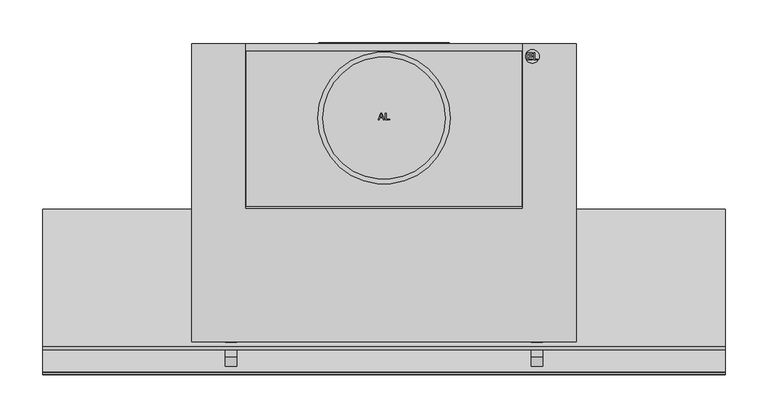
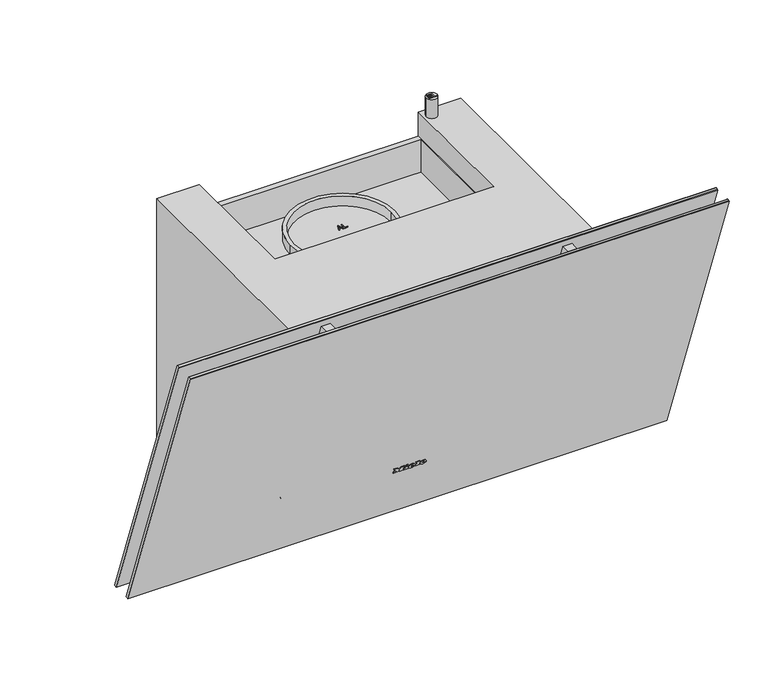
"""IFC4 building model written with IfcOpenShell, lengths in millimetres: proxy geometry, 12533950_D_DAH2860_GRGR : 28H2860G_D_12533950_DAH2860_GRGR."""

from ifc_helpers import new_model, si_unit, point, frame, frame_2d, origin, origin_with_axes, place, context, project, spatial, polyline, circle_curve, ellipse_curve, trimmed, segment, composite_curve, outline, extrude, faceted_brep, source, transform, mapped, element, save
from ifc_brep_helpers import plane_surface, cylinder_surface, revolved_surface, extruded_surface, advanced_brep


def specialty_equipment_5b4391ac(model_context):
    return source(origin(), model_context, "Body", "SolidModel", [
        extrude(outline(polyline([(0.0, 0.0), (0.968, 0.0), (0.968, 5.352), (0.0, 5.352), (0.0, 6.696), (3.52, 6.696), (3.52, 5.352), (2.56, 5.352), (2.56, 1.9488753), (6.136, 6.696), (9.728, 1.8807777), (9.728, 5.352), (8.744, 5.352), (8.744, 6.696), (15.128, 6.696), (15.128, 5.352), (14.112, 5.352), (14.112, 0.0), (15.128, 0.0), (15.128, -1.304), (10.256, -1.304), (7.92, 1.696), (5.576, -1.304), (0.0, -1.304), (0.0, 0.0)])), frame((-24.271984, -261.1380975, 82.2921818), z_axis=(0.0, 0.9396926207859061, 0.34202014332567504), x_axis=(1.0, 0.0, 0.0)), (0.0, 0.0, 1.0), 1.0),
        extrude(outline(polyline([(0.0, 0.0), (0.96, 0.0), (0.96, 5.352), (0.0, 5.352), (0.0, 6.696), (6.488, 6.696), (6.488, 5.352), (5.504, 5.352), (5.504, -1.304), (0.0, -1.304), (0.0, 0.0)])), frame((8.192016, -261.1380975, 82.2921818), z_axis=(0.0, 0.9396926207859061, 0.34202014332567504), x_axis=(1.0, 0.0, 0.0)), (0.0, 0.0, 1.0), 1.0),
        extrude(outline(polyline([(0.0, 0.0), (1.4315306, 0.0), (1.4390414, -2.9920869), (0.0109086, -2.9993294), (0.0, 0.0)])), frame((-6.351984, -261.4226582, 83.074006), z_axis=(0.0, 0.9396926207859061, 0.342020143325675), x_axis=(0.42472021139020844, 0.30963927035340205, -0.8507269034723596)), (0.0, 0.0, 1.0), 1.0),
        extrude(outline(polyline([(0.4933907, 2.4141097), (1.7898156, 3.022309), (2.1941493, 2.1604399), (5.1636141, 3.5535222), (4.7592805, 4.4153913), (5.9760369, 4.9862153), (8.6568708, -0.728194), (7.4401145, -1.299018), (7.0459741, -0.4588767), (2.7800843, -2.4601583), (0.4933907, 2.4141097)])), frame((-6.351984, -261.4226582, 83.074006), z_axis=(0.0, 0.9396926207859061, 0.342020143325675), x_axis=(0.42472021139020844, 0.30963927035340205, -0.8507269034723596)), (0.0, 0.0, 1.0), 1.0),
        advanced_brep(
        [(2.392016, -259.4964008, 77.7816572), (2.392016, -259.7727531, 78.5409288), (7.744016, -259.7727531, 78.5409288), (-1.567984, -259.7727531, 78.5409288), (0.632016, -258.8479306, 76.0), (7.608016, -259.4964008, 77.7816572), (5.192016, -259.4964008, 77.7816572), (3.288016, -259.1899507, 76.9396926), (2.392016, -260.1229817, 79.5031741), (2.392016, -260.4212233, 80.3225861), (3.760016, -260.4212233, 80.3225861), (3.760016, -260.1229817, 79.5031741), (2.392016, -258.5567082, 78.1236774), (3.288016, -258.2502581, 77.2817128), (5.192016, -258.5567082, 78.1236774), (7.608016, -258.5567082, 78.1236774), (0.632016, -257.908238, 76.3420201), (-1.567984, -258.8330604, 78.882949), (7.744016, -258.8330604, 78.882949), (2.392016, -258.8330604, 78.882949), (2.392016, -259.1832891, 79.8451942), (3.760016, -259.1832891, 79.8451942), (3.760016, -259.4815306, 80.6646062), (2.392016, -259.4815306, 80.6646062)],
        [
            (0, 1),
            (1, 2),
            (2, 3, ellipse_curve(frame((3.088016, -259.7727531, 78.5409288), z_axis=(0.0, -0.9396926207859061, -0.34202014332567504), x_axis=(-1.0, 0.0, 0.0)), 4.656, 3.848)),
            (3, 4, circle_curve(frame((1.5280596, -259.8657825, 78.7965252), z_axis=(0.0, -0.9396926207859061, -0.34202014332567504), x_axis=(0.0, 0.34202014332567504, -0.9396926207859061)), 3.1079688)),
            (4, 5, circle_curve(frame((2.9948096, -260.5881291, 80.7811561), z_axis=(0.0, -0.9396926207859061, -0.34202014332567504), x_axis=(0.0, 0.34202014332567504, -0.9396926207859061)), 5.6098607)),
            (5, 6),
            (6, 7, circle_curve(frame((3.6790748, -259.7508638, 78.4807885), z_axis=(0.0, 0.9396926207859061, 0.34202014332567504), x_axis=(0.0, 0.34202014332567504, -0.9396926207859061)), 1.6859795)),
            (7, 0, circle_curve(frame((3.288016, -259.4964008, 77.7816572), z_axis=(0.0, 0.9396926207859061, 0.34202014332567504), x_axis=(0.0, 0.34202014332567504, -0.9396926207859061)), 0.896)),
            (8, 9),
            (9, 10, circle_curve(frame((3.076016, -260.4212233, 80.3225861), z_axis=(0.0, 0.9396926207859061, 0.34202014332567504), x_axis=(0.0, 0.34202014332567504, -0.9396926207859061)), 0.684)),
            (10, 11),
            (11, 8),
            (12, 13, circle_curve(frame((3.288016, -258.5567082, 78.1236774), z_axis=(0.0, -0.9396926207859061, -0.34202014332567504), x_axis=(0.0, 0.34202014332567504, -0.9396926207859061)), 0.896)),
            (13, 14, circle_curve(frame((3.6790748, -258.8111712, 78.8228087), z_axis=(0.0, -0.9396926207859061, -0.34202014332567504), x_axis=(0.0, 0.34202014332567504, -0.9396926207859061)), 1.6859795)),
            (14, 15),
            (15, 16, circle_curve(frame((2.9948096, -259.6484365, 81.1231762), z_axis=(0.0, 0.9396926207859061, 0.34202014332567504), x_axis=(0.0, 0.34202014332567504, -0.9396926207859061)), 5.6098607)),
            (16, 17, circle_curve(frame((1.5280596, -258.9260899, 79.1385454), z_axis=(0.0, 0.9396926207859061, 0.34202014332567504), x_axis=(0.0, 0.34202014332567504, -0.9396926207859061)), 3.1079688)),
            (17, 18, ellipse_curve(frame((3.088016, -258.8330604, 78.882949), z_axis=(0.0, 0.9396926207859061, 0.34202014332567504), x_axis=(-1.0, 0.0, 0.0)), 4.656, 3.848)),
            (18, 19),
            (19, 12),
            (20, 21),
            (21, 22),
            (22, 23, circle_curve(frame((3.076016, -259.4815306, 80.6646062), z_axis=(0.0, -0.9396926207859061, -0.34202014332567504), x_axis=(0.0, 0.34202014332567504, -0.9396926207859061)), 0.684)),
            (23, 20),
            (0, 12),
            (19, 1),
            (18, 2),
            (5, 15),
            (14, 6),
            (17, 3),
            (13, 7),
            (16, 4),
            (8, 20),
            (23, 9),
            (22, 10),
            (21, 11),
        ],
        [
            plane_surface(frame((2.392016, -259.7727531, 78.5409288), z_axis=(0.0, -0.9396926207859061, -0.34202014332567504), x_axis=(0.0, -0.34202014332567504, 0.9396926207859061))),
            plane_surface(frame((2.392016, -258.8330604, 78.882949), z_axis=(0.0, 0.9396926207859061, 0.34202014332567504), x_axis=(0.0, 0.34202014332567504, -0.9396926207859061))),
            plane_surface(frame((2.392016, -259.4964008, 77.7816572), z_axis=(1.0, 0.0, 0.0), x_axis=(0.0, 0.9396926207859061, 0.34202014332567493))),
            plane_surface(frame((2.392016, -259.7727531, 78.5409288), z_axis=(0.0, 0.34202014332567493, -0.9396926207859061), x_axis=(0.0, 0.9396926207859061, 0.34202014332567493))),
            plane_surface(frame((7.608016, -259.4964008, 77.7816572), z_axis=(0.0, -0.34202014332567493, 0.9396926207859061), x_axis=(0.0, 0.9396926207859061, 0.34202014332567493))),
            extruded_surface(trimmed(ellipse_curve(frame((3.088016, -257.8933678, 79.2249691), z_axis=(0.0, -0.9396926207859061, -0.34202014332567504), x_axis=(-1.0, 0.0, 0.0)), 4.656, 3.848), [point((7.744016, -257.8933678, 79.2249691))], [point((-1.567984, -257.8933678, 79.2249691))], True, "CARTESIAN"), (0.0, -0.9396926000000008, -0.34202009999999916), 0.9999999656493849),
            revolved_surface(polyline([(3.6790748, -258.2345321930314, 77.23850622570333), (3.6790748, -259.1742248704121, 76.89648606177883)]), (3.6790748, -258.8111712, 78.8228087), (0.0, 0.9396926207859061, 0.34202014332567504)),
            revolved_surface(polyline([(3.288016, -258.25025810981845, 77.28171282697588), (3.288016, -259.1899507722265, 76.93969266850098)]), (3.288016, -258.5567082, 78.1236774), (0.0, 0.9396926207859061, 0.34202014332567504)),
            cylinder_surface(frame((1.5280596, -258.9260899, 79.1385454), z_axis=(0.0, -0.9396926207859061, -0.34202014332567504), x_axis=(0.0, 0.34202014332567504, -0.9396926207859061)), 3.1079688),
            cylinder_surface(frame((2.9948096, -259.6484365, 81.1231762), z_axis=(0.0, -0.9396926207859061, -0.34202014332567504), x_axis=(0.0, 0.34202014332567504, -0.9396926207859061)), 5.6098607),
            plane_surface(frame((2.392016, -260.1229817, 79.5031741), z_axis=(1.0, 0.0, 0.0), x_axis=(0.0, 0.9396926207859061, 0.34202014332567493))),
            revolved_surface(polyline([(3.076016, -259.2475888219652, 80.02185644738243), (3.076016, -260.1872814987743, 79.67983628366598)]), (3.076016, -259.4815306, 80.6646062), (0.0, 0.9396926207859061, 0.34202014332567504)),
            plane_surface(frame((3.760016, -260.4212233, 80.3225861), z_axis=(-1.0, 0.0, 0.0), x_axis=(0.0, 0.9396926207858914, 0.3420201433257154))),
            plane_surface(frame((3.760016, -260.1229817, 79.5031741), z_axis=(0.0, -0.34202014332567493, 0.9396926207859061), x_axis=(0.0, 0.9396926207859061, 0.34202014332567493))),
        ],
        [
            (0, [[1, 2, 3, 4, 5, 6, 7, 8], [9, 10, 11, 12]]),
            (1, [[13, 14, 15, 16, 17, 18, 19, 20], [21, 22, 23, 24]]),
            (2, [[-1, 25, -20, 26]]),
            (3, [[-2, -26, -19, 27]]),
            (4, [[-6, 28, -15, 29]]),
            (5, [[-3, -27, -18, 30]]),
            (6, [[-7, -29, -14, 31]]),
            (7, [[-8, -31, -13, -25]]),
            (8, [[-4, -30, -17, 32]]),
            (9, [[-5, -32, -16, -28]]),
            (10, [[-9, 33, -24, 34]]),
            (11, [[-10, -34, -23, 35]]),
            (12, [[-11, -35, -22, 36]]),
            (13, [[-12, -36, -21, -33]]),
        ],
    ),
        advanced_brep(
        [(19.088016, -259.4964008, 77.7816572), (19.088016, -259.7727531, 78.5409288), (24.440016, -259.7727531, 78.5409288), (15.128016, -259.7727531, 78.5409288), (17.328016, -258.8479306, 76.0), (24.304016, -259.4964008, 77.7816572), (21.888016, -259.4964008, 77.7816572), (19.984016, -259.1899507, 76.9396926), (19.088016, -260.1229817, 79.5031741), (19.088016, -260.4212233, 80.3225861), (20.456016, -260.4212233, 80.3225861), (20.456016, -260.1229817, 79.5031741), (19.088016, -258.5567082, 78.1236774), (19.984016, -258.2502581, 77.2817128), (21.888016, -258.5567082, 78.1236774), (24.304016, -258.5567082, 78.1236774), (17.328016, -257.908238, 76.3420201), (15.128016, -258.8330604, 78.882949), (24.440016, -258.8330604, 78.882949), (19.088016, -258.8330604, 78.882949), (19.088016, -259.1832891, 79.8451942), (20.456016, -259.1832891, 79.8451942), (20.456016, -259.4815306, 80.6646062), (19.088016, -259.4815306, 80.6646062)],
        [
            (0, 1),
            (1, 2),
            (2, 3, ellipse_curve(frame((19.784016, -259.7727531, 78.5409288), z_axis=(0.0, -0.9396926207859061, -0.34202014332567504), x_axis=(-1.0, 0.0, 0.0)), 4.656, 3.848)),
            (3, 4, circle_curve(frame((18.2240596, -259.8657825, 78.7965252), z_axis=(0.0, -0.9396926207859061, -0.34202014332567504), x_axis=(0.0, 0.34202014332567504, -0.9396926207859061)), 3.1079688)),
            (4, 5, circle_curve(frame((19.6908096, -260.5881291, 80.7811561), z_axis=(0.0, -0.9396926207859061, -0.34202014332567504), x_axis=(0.0, 0.34202014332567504, -0.9396926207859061)), 5.6098607)),
            (5, 6),
            (6, 7, circle_curve(frame((20.3750748, -259.7508638, 78.4807885), z_axis=(0.0, 0.9396926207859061, 0.34202014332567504), x_axis=(0.0, 0.34202014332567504, -0.9396926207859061)), 1.6859795)),
            (7, 0, circle_curve(frame((19.984016, -259.4964008, 77.7816572), z_axis=(0.0, 0.9396926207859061, 0.34202014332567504), x_axis=(0.0, 0.34202014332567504, -0.9396926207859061)), 0.896)),
            (8, 9),
            (9, 10, circle_curve(frame((19.772016, -260.4212233, 80.3225861), z_axis=(0.0, 0.9396926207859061, 0.34202014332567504), x_axis=(0.0, 0.34202014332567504, -0.9396926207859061)), 0.684)),
            (10, 11),
            (11, 8),
            (12, 13, circle_curve(frame((19.984016, -258.5567082, 78.1236774), z_axis=(0.0, -0.9396926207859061, -0.34202014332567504), x_axis=(0.0, 0.34202014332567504, -0.9396926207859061)), 0.896)),
            (13, 14, circle_curve(frame((20.3750748, -258.8111712, 78.8228087), z_axis=(0.0, -0.9396926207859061, -0.34202014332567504), x_axis=(0.0, 0.34202014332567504, -0.9396926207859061)), 1.6859795)),
            (14, 15),
            (15, 16, circle_curve(frame((19.6908096, -259.6484365, 81.1231762), z_axis=(0.0, 0.9396926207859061, 0.34202014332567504), x_axis=(0.0, 0.34202014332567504, -0.9396926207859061)), 5.6098607)),
            (16, 17, circle_curve(frame((18.2240596, -258.9260899, 79.1385454), z_axis=(0.0, 0.9396926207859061, 0.34202014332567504), x_axis=(0.0, 0.34202014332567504, -0.9396926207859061)), 3.1079688)),
            (17, 18, ellipse_curve(frame((19.784016, -258.8330604, 78.882949), z_axis=(0.0, 0.9396926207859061, 0.34202014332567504), x_axis=(-1.0, 0.0, 0.0)), 4.656, 3.848)),
            (18, 19),
            (19, 12),
            (20, 21),
            (21, 22),
            (22, 23, circle_curve(frame((19.772016, -259.4815306, 80.6646062), z_axis=(0.0, -0.9396926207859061, -0.34202014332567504), x_axis=(0.0, 0.34202014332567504, -0.9396926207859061)), 0.684)),
            (23, 20),
            (0, 12),
            (19, 1),
            (18, 2),
            (5, 15),
            (14, 6),
            (17, 3),
            (13, 7),
            (16, 4),
            (8, 20),
            (23, 9),
            (22, 10),
            (21, 11),
        ],
        [
            plane_surface(frame((19.088016, -259.7727531, 78.5409288), z_axis=(0.0, -0.9396926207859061, -0.34202014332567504), x_axis=(0.0, -0.34202014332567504, 0.9396926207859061))),
            plane_surface(frame((19.088016, -258.8330604, 78.882949), z_axis=(0.0, 0.9396926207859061, 0.34202014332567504), x_axis=(0.0, 0.34202014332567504, -0.9396926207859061))),
            plane_surface(frame((19.088016, -259.4964008, 77.7816572), z_axis=(1.0, 0.0, 0.0), x_axis=(0.0, 0.9396926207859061, 0.34202014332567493))),
            plane_surface(frame((19.088016, -259.7727531, 78.5409288), z_axis=(0.0, 0.34202014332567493, -0.9396926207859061), x_axis=(0.0, 0.9396926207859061, 0.34202014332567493))),
            plane_surface(frame((24.304016, -259.4964008, 77.7816572), z_axis=(0.0, -0.34202014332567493, 0.9396926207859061), x_axis=(0.0, 0.9396926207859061, 0.34202014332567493))),
            extruded_surface(trimmed(ellipse_curve(frame((19.784016, -257.8933678, 79.2249691), z_axis=(0.0, -0.9396926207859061, -0.34202014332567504), x_axis=(-1.0, 0.0, 0.0)), 4.656, 3.848), [point((24.440016, -257.8933678, 79.2249691))], [point((15.128016, -257.8933678, 79.2249691))], True, "CARTESIAN"), (0.0, -0.9396926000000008, -0.34202009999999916), 0.9999999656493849),
            revolved_surface(polyline([(20.3750748, -258.2345321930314, 77.23850622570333), (20.3750748, -259.1742248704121, 76.89648606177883)]), (20.3750748, -258.8111712, 78.8228087), (0.0, 0.9396926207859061, 0.34202014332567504)),
            revolved_surface(polyline([(19.984016, -258.25025810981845, 77.28171282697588), (19.984016, -259.1899507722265, 76.93969266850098)]), (19.984016, -258.5567082, 78.1236774), (0.0, 0.9396926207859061, 0.34202014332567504)),
            cylinder_surface(frame((18.2240596, -258.9260899, 79.1385454), z_axis=(0.0, -0.9396926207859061, -0.34202014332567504), x_axis=(0.0, 0.34202014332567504, -0.9396926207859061)), 3.1079688),
            cylinder_surface(frame((19.6908096, -259.6484365, 81.1231762), z_axis=(0.0, -0.9396926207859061, -0.34202014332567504), x_axis=(0.0, 0.34202014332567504, -0.9396926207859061)), 5.6098607),
            plane_surface(frame((19.088016, -260.1229817, 79.5031741), z_axis=(1.0, 0.0, 0.0), x_axis=(0.0, 0.9396926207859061, 0.34202014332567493))),
            revolved_surface(polyline([(19.772016, -259.2475888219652, 80.02185644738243), (19.772016, -260.1872814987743, 79.67983628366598)]), (19.772016, -259.4815306, 80.6646062), (0.0, 0.9396926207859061, 0.34202014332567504)),
            plane_surface(frame((20.456016, -260.4212233, 80.3225861), z_axis=(-1.0, 0.0, 0.0), x_axis=(0.0, 0.9396926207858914, 0.3420201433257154))),
            plane_surface(frame((20.456016, -260.1229817, 79.5031741), z_axis=(0.0, -0.34202014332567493, 0.9396926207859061), x_axis=(0.0, 0.9396926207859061, 0.34202014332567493))),
        ],
        [
            (0, [[1, 2, 3, 4, 5, 6, 7, 8], [9, 10, 11, 12]]),
            (1, [[13, 14, 15, 16, 17, 18, 19, 20], [21, 22, 23, 24]]),
            (2, [[-1, 25, -20, 26]]),
            (3, [[-2, -26, -19, 27]]),
            (4, [[-6, 28, -15, 29]]),
            (5, [[-3, -27, -18, 30]]),
            (6, [[-7, -29, -14, 31]]),
            (7, [[-8, -31, -13, -25]]),
            (8, [[-4, -30, -17, 32]]),
            (9, [[-5, -32, -16, -28]]),
            (10, [[-9, 33, -24, 34]]),
            (11, [[-10, -34, -23, 35]]),
            (12, [[-11, -35, -22, 36]]),
            (13, [[-12, -36, -21, -33]]),
        ],
    ),
        advanced_brep(
        [(-198.5, -225.9485265, 82.132138), (-198.5, -235.8911369, 109.4492355), (-198.5, -230.9198317, 95.7906867), (-198.5, -231.2422284, 80.5173231), (-198.5, -240.9843308, 107.2835295), (-198.5, -250.514978, 76.8365225), (-198.5, -258.1140866, 97.7149017), (-198.5, -251.4164577, 77.3487429), (-198.5, -258.4754112, 96.7430581), (-198.5, -254.9459345, 87.0459005)],
        [
            (0, 1, circle_curve(frame((-198.5, -230.9198317, 95.7906867), z_axis=(0.0, 0.9396926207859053, 0.3420201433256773), x_axis=(0.0, -0.3420201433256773, 0.9396926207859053)), 14.535124)),
            (1, 2),
            (2, 0),
            (1, 0, circle_curve(frame((-198.5, -230.9198317, 95.7906867), z_axis=(0.0, 0.9396926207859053, 0.3420201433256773), x_axis=(0.0, -0.3420201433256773, 0.9396926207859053)), 14.535124)),
            (3, 4, circle_curve(frame((-198.5, -236.1132796, 93.9004263), z_axis=(0.0, 0.9396926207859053, 0.3420201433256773), x_axis=(0.0, -0.3420201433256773, 0.9396926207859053)), 14.2420009)),
            (4, 1),
            (0, 3),
            (4, 3, circle_curve(frame((-198.5, -236.1132796, 93.9004263), z_axis=(0.0, 0.9396926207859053, 0.3420201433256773), x_axis=(0.0, -0.3420201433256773, 0.9396926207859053)), 14.2420009)),
            (5, 6, circle_curve(frame((-198.5, -254.3145323, 87.2757121), z_axis=(0.0, 0.9396926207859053, 0.3420201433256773), x_axis=(0.0, -0.3420201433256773, 0.9396926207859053)), 11.1091535)),
            (6, 4),
            (3, 5),
            (6, 5, circle_curve(frame((-198.5, -254.3145323, 87.2757121), z_axis=(0.0, 0.9396926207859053, 0.3420201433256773), x_axis=(0.0, -0.3420201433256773, 0.9396926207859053)), 11.1091535)),
            (7, 8, circle_curve(frame((-198.5, -254.9459345, 87.0459005), z_axis=(0.0, 0.9396926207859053, 0.3420201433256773), x_axis=(0.0, -0.3420201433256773, 0.9396926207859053)), 10.3194996)),
            (8, 6),
            (5, 7),
            (8, 7, circle_curve(frame((-198.5, -254.9459345, 87.0459005), z_axis=(0.0, 0.9396926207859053, 0.3420201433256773), x_axis=(0.0, -0.3420201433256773, 0.9396926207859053)), 10.3194996)),
            (9, 8),
            (7, 9),
        ],
        [
            plane_surface(frame((-198.5, -230.9198317, 95.7906867), z_axis=(0.0, 0.9396926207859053, 0.3420201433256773), x_axis=(0.0, -0.3420201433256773, 0.9396926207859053))),
            revolved_surface(polyline([(-198.5, -235.8312261, 109.4708926), (-198.5, -240.9843308, 107.2835295)]), (-198.5, -255.2773841, 86.9252627), (0.0, -0.9396926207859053, -0.3420201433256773)),
            revolved_surface(polyline([(-198.5, -240.9843308, 107.2835295), (-198.5, -258.1140866, 97.7149017)]), (-198.5, -255.2773841, 86.9252627), (0.0, -0.9396926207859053, -0.3420201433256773)),
            revolved_surface(polyline([(-198.5, -258.1140866, 97.7149017), (-198.5, -258.4754112, 96.7430581)]), (-198.5, -255.2773841, 86.9252627), (0.0, -0.9396926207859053, -0.3420201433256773)),
            plane_surface(frame((-198.5, -254.9459345, 87.0459005), z_axis=(0.0, -0.9396926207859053, -0.3420201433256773), x_axis=(0.0, -0.3420201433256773, 0.9396926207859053))),
        ],
        [
            (0, [[1, 2, 3]]),
            (0, [[4, -3, -2]]),
            (1, [[5, 6, -1, 7]]),
            (1, [[8, -7, -4, -6]]),
            (2, [[9, 10, -5, 11]]),
            (2, [[12, -11, -8, -10]]),
            (3, [[13, 14, -9, 15]]),
            (3, [[16, -15, -12, -14]]),
            (4, [[17, -13, 18]]),
            (4, [[-18, -16, -17]]),
        ],
    ),
        advanced_brep(
        [(-198.5, -249.4001153, 68.4387353), (-198.5, -262.8067778, 105.2732379), (-198.5, -257.0531232, 93.8737841), (-198.5, -252.3199878, 80.8696014), (-198.5, -250.699917, 68.232867), (-198.5, -263.9348133, 104.5954458), (-198.5, -257.3173652, 86.4141564), (-198.5, -254.6865555, 87.3716928)],
        [
            (0, 1, circle_curve(frame((-198.5, -256.1034466, 86.8559866), z_axis=(0.0, 0.9396926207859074, 0.34202014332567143), x_axis=(0.0, -0.34202014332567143, 0.9396926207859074)), 19.5992294)),
            (1, 2),
            (2, 3, circle_curve(frame((-198.5, -254.6865555, 87.3716928), z_axis=(0.0, -0.9396926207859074, -0.34202014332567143), x_axis=(0.0, -0.34202014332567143, 0.9396926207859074)), 6.9193811)),
            (3, 0),
            (1, 0, circle_curve(frame((-198.5, -256.1034466, 86.8559866), z_axis=(0.0, 0.9396926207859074, 0.34202014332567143), x_axis=(0.0, -0.34202014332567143, 0.9396926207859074)), 19.5992294)),
            (3, 2, circle_curve(frame((-198.5, -254.6865555, 87.3716928), z_axis=(0.0, -0.9396926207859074, -0.34202014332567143), x_axis=(0.0, -0.34202014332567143, 0.9396926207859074)), 6.9193811)),
            (4, 5, circle_curve(frame((-198.5, -257.3173652, 86.4141564), z_axis=(0.0, 0.9396926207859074, 0.34202014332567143), x_axis=(0.0, -0.34202014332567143, 0.9396926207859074)), 19.3481241)),
            (5, 1),
            (0, 4),
            (5, 4, circle_curve(frame((-198.5, -257.3173652, 86.4141564), z_axis=(0.0, 0.9396926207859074, 0.34202014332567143), x_axis=(0.0, -0.34202014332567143, 0.9396926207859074)), 19.3481241)),
            (6, 5),
            (4, 6),
            (2, 7),
            (7, 3),
        ],
        [
            revolved_surface(polyline([(-198.5, -257.0531232, 93.8737841), (-198.5, -262.8067778, 105.2732379)]), (-198.5, -254.6865555, 87.3716928), (0.0, -0.9396926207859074, -0.34202014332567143)),
            revolved_surface(polyline([(-198.5, -262.8067778, 105.2732379), (-198.5, -263.9348133, 104.5954458)]), (-198.5, -254.6865555, 87.3716928), (0.0, -0.9396926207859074, -0.34202014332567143)),
            plane_surface(frame((-198.5, -257.3173652, 86.4141564), z_axis=(0.0, -0.9396926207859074, -0.34202014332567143), x_axis=(0.0, -0.34202014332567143, 0.9396926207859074))),
            plane_surface(frame((-198.5, -254.6865555, 87.3716928), z_axis=(0.0, 0.9396926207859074, 0.34202014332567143), x_axis=(0.0, -0.34202014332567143, 0.9396926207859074))),
        ],
        [
            (0, [[1, 2, 3, 4]]),
            (0, [[5, -4, 6, -2]]),
            (1, [[7, 8, -1, 9]]),
            (1, [[10, -9, -5, -8]]),
            (2, [[11, -7, 12]]),
            (2, [[-12, -10, -11]]),
            (3, [[-3, 13, 14]]),
            (3, [[-6, -14, -13]]),
        ],
    ),
        advanced_brep(
        [(198.5, -230.9018417, 95.8650227), (198.5, -235.8509293, 109.4625291), (198.5, -225.9091808, 82.1477994), (198.5, -240.9843308, 107.2835295), (198.5, -231.2422284, 80.5173231), (198.5, -258.1140866, 97.7149017), (198.5, -250.514978, 76.8365225), (198.5, -258.4754112, 96.7430581), (198.5, -251.4164577, 77.3487429), (198.5, -254.9459345, 87.0459005)],
        [
            (0, 1),
            (1, 2, circle_curve(frame((198.5, -230.8800551, 95.8051643), z_axis=(0.0, 0.9396926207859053, 0.3420201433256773), x_axis=(0.0, -0.3420201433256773, 0.9396926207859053)), 14.5338641)),
            (2, 0),
            (2, 1, circle_curve(frame((198.5, -230.8800551, 95.8051643), z_axis=(0.0, 0.9396926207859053, 0.3420201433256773), x_axis=(0.0, -0.3420201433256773, 0.9396926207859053)), 14.5338641)),
            (1, 3),
            (3, 4, circle_curve(frame((198.5, -236.1132796, 93.9004263), z_axis=(0.0, 0.9396926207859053, 0.3420201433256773), x_axis=(0.0, -0.3420201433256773, 0.9396926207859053)), 14.2420009)),
            (4, 2),
            (4, 3, circle_curve(frame((198.5, -236.1132796, 93.9004263), z_axis=(0.0, 0.9396926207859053, 0.3420201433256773), x_axis=(0.0, -0.3420201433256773, 0.9396926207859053)), 14.2420009)),
            (3, 5),
            (5, 6, circle_curve(frame((198.5, -254.3145323, 87.2757121), z_axis=(0.0, 0.9396926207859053, 0.3420201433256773), x_axis=(0.0, -0.3420201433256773, 0.9396926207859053)), 11.1091535)),
            (6, 4),
            (6, 5, circle_curve(frame((198.5, -254.3145323, 87.2757121), z_axis=(0.0, 0.9396926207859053, 0.3420201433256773), x_axis=(0.0, -0.3420201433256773, 0.9396926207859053)), 11.1091535)),
            (5, 7),
            (7, 8, circle_curve(frame((198.5, -254.9459345, 87.0459005), z_axis=(0.0, 0.9396926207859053, 0.3420201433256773), x_axis=(0.0, -0.3420201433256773, 0.9396926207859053)), 10.3194996)),
            (8, 6),
            (8, 7, circle_curve(frame((198.5, -254.9459345, 87.0459005), z_axis=(0.0, 0.9396926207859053, 0.3420201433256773), x_axis=(0.0, -0.3420201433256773, 0.9396926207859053)), 10.3194996)),
            (7, 9),
            (9, 8),
        ],
        [
            plane_surface(frame((198.5, -230.8800551, 95.8051643), z_axis=(0.0, 0.9396926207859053, 0.3420201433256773), x_axis=(0.0, -0.3420201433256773, 0.9396926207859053))),
            revolved_surface(polyline([(198.5, -240.9843308, 107.2835295), (198.5, -235.8509293, 109.4625291)]), (198.5, -255.2773841, 86.9252627), (0.0, 0.9396926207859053, 0.3420201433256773)),
            revolved_surface(polyline([(198.5, -258.1140866, 97.7149017), (198.5, -240.9843308, 107.2835295)]), (198.5, -255.2773841, 86.9252627), (0.0, 0.9396926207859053, 0.3420201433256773)),
            revolved_surface(polyline([(198.5, -258.4754112, 96.7430581), (198.5, -258.1140866, 97.7149017)]), (198.5, -255.2773841, 86.9252627), (0.0, 0.9396926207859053, 0.3420201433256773)),
            plane_surface(frame((198.5, -254.9459345, 87.0459005), z_axis=(0.0, -0.9396926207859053, -0.3420201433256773), x_axis=(0.0, -0.3420201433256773, 0.9396926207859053))),
        ],
        [
            (0, [[1, 2, 3]]),
            (0, [[-3, 4, -1]]),
            (1, [[-2, 5, 6, 7]]),
            (1, [[-4, -7, 8, -5]]),
            (2, [[-6, 9, 10, 11]]),
            (2, [[-8, -11, 12, -9]]),
            (3, [[-10, 13, 14, 15]]),
            (3, [[-12, -15, 16, -13]]),
            (4, [[-14, 17, 18]]),
            (4, [[-16, -18, -17]]),
        ],
    ),
        advanced_brep(
        [(198.5, -252.3199878, 80.8696014), (198.5, -257.0531232, 93.8737841), (198.5, -262.8067778, 105.2732379), (198.5, -249.4001153, 68.4387353), (198.5, -263.9348133, 104.5954458), (198.5, -250.699917, 68.232867), (198.5, -257.3173652, 86.4141564), (198.5, -254.6865555, 87.3716928)],
        [
            (0, 1, circle_curve(frame((198.5, -254.6865555, 87.3716928), z_axis=(0.0, -0.9396926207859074, -0.34202014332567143), x_axis=(0.0, -0.34202014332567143, 0.9396926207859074)), 6.9193811)),
            (1, 2),
            (2, 3, circle_curve(frame((198.5, -256.1034466, 86.8559866), z_axis=(0.0, 0.9396926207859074, 0.34202014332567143), x_axis=(0.0, -0.34202014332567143, 0.9396926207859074)), 19.5992294)),
            (3, 0),
            (1, 0, circle_curve(frame((198.5, -254.6865555, 87.3716928), z_axis=(0.0, -0.9396926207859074, -0.34202014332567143), x_axis=(0.0, -0.34202014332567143, 0.9396926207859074)), 6.9193811)),
            (3, 2, circle_curve(frame((198.5, -256.1034466, 86.8559866), z_axis=(0.0, 0.9396926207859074, 0.34202014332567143), x_axis=(0.0, -0.34202014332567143, 0.9396926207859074)), 19.5992294)),
            (2, 4),
            (4, 5, circle_curve(frame((198.5, -257.3173652, 86.4141564), z_axis=(0.0, 0.9396926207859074, 0.34202014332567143), x_axis=(0.0, -0.34202014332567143, 0.9396926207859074)), 19.3481241)),
            (5, 3),
            (5, 4, circle_curve(frame((198.5, -257.3173652, 86.4141564), z_axis=(0.0, 0.9396926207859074, 0.34202014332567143), x_axis=(0.0, -0.34202014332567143, 0.9396926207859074)), 19.3481241)),
            (4, 6),
            (6, 5),
            (7, 1),
            (0, 7),
        ],
        [
            revolved_surface(polyline([(198.5, -262.8067778, 105.2732379), (198.5, -257.0531232, 93.8737841)]), (198.5, -254.6865555, 87.3716928), (0.0, 0.9396926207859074, 0.34202014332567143)),
            revolved_surface(polyline([(198.5, -263.9348133, 104.5954458), (198.5, -262.8067778, 105.2732379)]), (198.5, -254.6865555, 87.3716928), (0.0, 0.9396926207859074, 0.34202014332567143)),
            plane_surface(frame((198.5, -257.3173652, 86.4141564), z_axis=(0.0, -0.9396926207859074, -0.34202014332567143), x_axis=(0.0, -0.34202014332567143, 0.9396926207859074))),
            plane_surface(frame((198.5, -254.6865555, 87.3716928), z_axis=(0.0, 0.9396926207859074, 0.34202014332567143), x_axis=(0.0, -0.34202014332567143, 0.9396926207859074))),
        ],
        [
            (0, [[1, 2, 3, 4]]),
            (0, [[5, -4, 6, -2]]),
            (1, [[-3, 7, 8, 9]]),
            (1, [[-6, -9, 10, -7]]),
            (2, [[-8, 11, 12]]),
            (2, [[-10, -12, -11]]),
            (3, [[13, -1, 14]]),
            (3, [[-14, -5, -13]]),
        ],
    ),
        extrude(outline(polyline([(-377.2541471, 415.9959153), (-366.2530147, 420.0), (-348.8949883, 420.0), (-315.0686278, 327.0628384), (-321.2276447, 324.8211395), (-334.9582954, 325.4920509), (-347.6637142, 334.6968691), (-377.2541471, 415.9959153)])), frame((-185.7167767, 0.0, 0.0), z_axis=(1.0, 0.0, 0.0), x_axis=(0.0, 1.0, 0.0)), (0.0, 0.0, 1.0), 13.4088513),
        extrude(outline(polyline([(-377.2541471, 415.9959153), (-366.2530147, 420.0), (-348.8949883, 420.0), (-315.0686278, 327.0628384), (-321.2276447, 324.8211395), (-334.9582954, 325.4920509), (-347.6637142, 334.6968691), (-377.2541471, 415.9959153)])), frame((172.3079253, 0.0, 0.0), z_axis=(1.0, 0.0, 0.0), x_axis=(0.0, 1.0, 0.0)), (0.0, 0.0, 1.0), 13.4088513),
        extrude(outline(polyline([(-387.1323401, 432.8365045), (-384.310791, 433.8634644), (-383.5944926, 433.4158714), (-223.2772642, -7.0520936), (-223.5613092, -7.7920563), (-226.3696341, -8.8142029), (-227.0596169, -8.4158411), (-387.3899893, 432.0882368), (-387.1323401, 432.8365045)])), frame((-399.0, 0.0, 0.0), z_axis=(1.0, 0.0, 0.0), x_axis=(0.0, 1.0, 0.0)), (0.0, 0.0, 1.0), 798.0),
        extrude(outline(polyline([(-357.7500767, 432.8365045), (-354.6517562, 433.9642009), (-353.7790899, 433.4190033), (-193.5484199, -6.8114741), (-193.8719465, -7.7304916), (-196.9340313, -8.8449984), (-197.6773535, -8.4158411), (-358.007726, 432.0882368), (-357.7500767, 432.8365045)])), frame((-399.0, 0.0, 0.0), z_axis=(1.0, 0.0, 0.0), x_axis=(0.0, 1.0, 0.0)), (0.0, 0.0, 1.0), 798.0),
        extrude(outline(polyline([(-287.1198024, 229.753659), (-287.6205942, 218.2841221), (-296.0848836, 210.5280081), (-301.7042998, 208.4827078), (-327.3688694, 278.9955333), (-319.9071972, 281.7113599), (-309.7792372, 280.1072486), (-302.5107089, 272.039827), (-287.1198024, 229.753659)])), frame((182.9499624, 0.0, 0.0), z_axis=(1.0, 0.0, 0.0), x_axis=(0.0, 1.0, 0.0)), (0.0, 0.0, 1.0), 3.1163744),
        extrude(outline(composite_curve([segment(trimmed(circle_curve(frame_2d((0.0, -6.0)), 6.0), [point((0.0, -12.0))], [point((0.0, 0.0))], False, "CARTESIAN"), True, "CONTINUOUS"), segment(trimmed(circle_curve(frame_2d((0.0, -6.0)), 6.0), [point((0.0, 0.0))], [point((0.0, -12.0))], False, "CARTESIAN"), True, "CONTINUOUS")], self_intersect=False)), frame((198.4796168, -304.9287055, 251.8746642), z_axis=(0.0, -0.3420201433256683, 0.9396926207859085), x_axis=(0.0, -0.9396926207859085, -0.3420201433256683)), (0.0, 0.0, 1.0), 126.121517),
        faceted_brep([(225.0000193, -349.0, 420.0), (225.0000193, -196.2332597, 0.0), (225.0000193, 0.0, 0.0), (225.0000193, 0.0, 420.0), (-225.0000193, -349.0, 420.0), (-225.0000193, 0.0, 420.0), (-225.0000193, 0.0, 0.0), (-225.0000193, -196.2332597, 0.0), (176.5, -48.0, 0.0), (-176.5, -48.0, 0.0), (-176.5, -181.0, 0.0), (176.5, -181.0, 0.0), (125.0, -12.0, 0.0), (-125.0, -12.0, 0.0), (-125.0, -38.0, 0.0), (125.0, -38.0, 0.0), (-162.2229137, 0.0, 420.0), (-162.2229137, 0.0, 382.5), (162.2229137, 0.0, 382.5), (162.2229137, 0.0, 420.0), (-160.9556997, -9.0, 332.0), (160.9556997, -9.0, 332.0), (160.9556997, -9.0, 382.5), (-160.9556997, -9.0, 382.5), (-160.9556997, -190.0399284, 332.0), (-160.9556997, -190.0399284, 382.5), (160.9556997, -190.0399284, 332.0), (160.9556997, -190.0399284, 382.5), (176.5, -48.0, 11.0), (-176.5, -48.0, 11.0), (125.0, -12.0, 11.0), (-125.0, -12.0, 11.0), (162.2229137, -193.2332597, 420.0), (-162.2229137, -193.2332597, 420.0), (176.5, -181.0, 11.0), (-176.5, -181.0, 11.0), (125.0, -38.0, 11.0), (-125.0, -38.0, 11.0), (162.2229137, -193.2332597, 382.5), (-162.2229137, -193.2332597, 382.5)], [[[0, 1, 2, 3]], [[4, 5, 6, 7]], [[1, 0, 4, 7]], [[2, 1, 7, 6], [8, 9, 10, 11], [12, 13, 14, 15]], [[3, 2, 6, 5, 16, 17, 18, 19]], [[20, 21, 22, 23]], [[24, 20, 23, 25]], [[21, 26, 27, 22]], [[28, 29, 9, 8]], [[30, 31, 13, 12]], [[0, 3, 19, 32, 33, 16, 5, 4]], [[21, 20, 24, 26]], [[26, 24, 25, 27]], [[28, 34, 35, 29]], [[29, 35, 10, 9]], [[35, 34, 11, 10]], [[34, 28, 8, 11]], [[30, 36, 37, 31]], [[31, 37, 14, 13]], [[37, 36, 15, 14]], [[36, 30, 12, 15]], [[32, 38, 39, 33]], [[39, 38, 18, 17], [23, 22, 27, 25]], [[38, 32, 19, 18]], [[33, 39, 17, 16]]]),
        extrude(outline(polyline([(125.0, -12.0), (125.0, -38.0), (-125.0, -38.0), (-125.0, -12.0), (125.0, -12.0)]), holes=[polyline([(-119.0, -31.2), (119.0, -31.2), (119.0, -18.8), (-119.0, -18.8), (-119.0, -31.2)])]), origin_with_axes(), (0.0, 0.0, 1.0), 11.0),
        extrude(outline(polyline([(119.0, -18.8), (119.0, -31.2), (-119.0, -31.2), (-119.0, -18.8), (119.0, -18.8)])), origin_with_axes(), (0.0, 0.0, 1.0), 11.0),
        extrude(outline(polyline([(176.5, -48.0), (176.5, -181.0), (-176.5, -181.0), (-176.5, -48.0), (176.5, -48.0)]), holes=[polyline([(167.5, -57.0), (-167.5, -57.0), (-167.5, -172.0), (167.5, -172.0), (167.5, -57.0)])]), origin_with_axes(), (0.0, 0.0, 1.0), 11.0),
        extrude(outline(polyline([(167.5, -57.0), (167.5, -172.0), (-167.5, -172.0), (-167.5, -57.0), (167.5, -57.0)])), frame((0.0, 0.0, 1.0), z_axis=(0.0, 0.0, 1.0), x_axis=(1.0, 0.0, 0.0)), (0.0, 0.0, 1.0), 10.0),
        extrude(outline(polyline([(-167.5, -98.0), (-124.5000193, -98.0), (-124.5000193, -131.0), (-167.5, -131.0), (-167.5, -98.0)]), holes=[polyline([(-131.0000193, -104.5), (-160.0000193, -104.5), (-160.0000193, -124.5), (-131.0000193, -124.5), (-131.0000193, -104.5)])]), origin_with_axes(), (0.0, 0.0, 1.0), 1.0),
        extrude(outline(polyline([(-131.0000193, -104.5), (-131.0000193, -124.5), (-140.0000193, -124.5), (-140.0000193, -104.5), (-131.0000193, -104.5)])), origin_with_axes(), (0.0, 0.0, 1.0), 1.0),
        extrude(outline(composite_curve([segment(trimmed(circle_curve(frame_2d((0.0, -86.9971466)), 77.2963157), [point((-77.2963157, -86.9971466))], [point((77.2963157, -86.9971466))], False, "CARTESIAN"), True, "CONTINUOUS"), segment(trimmed(circle_curve(frame_2d((0.0, -86.9971466)), 77.2963157), [point((77.2963157, -86.9971466))], [point((-77.2963157, -86.9971466))], False, "CARTESIAN"), True, "CONTINUOUS")], self_intersect=False), holes=[composite_curve([segment(trimmed(circle_curve(frame_2d((0.0, -86.9971466)), 71.617422), [point((-71.617422, -86.9971466))], [point((71.617422, -86.9971466))], True, "CARTESIAN"), True, "CONTINUOUS"), segment(trimmed(circle_curve(frame_2d((0.0, -86.9971466)), 71.617422), [point((71.617422, -86.9971466))], [point((-71.617422, -86.9971466))], True, "CARTESIAN"), True, "CONTINUOUS")], self_intersect=False)]), frame((0.0, 0.0, 332.0), z_axis=(0.0, 0.0, 1.0), x_axis=(1.0, 0.0, 0.0)), (0.0, 0.0, 1.0), 15.9326282),
        extrude(outline(polyline([(-6.8377, -89.2416424), (-3.629769, -81.2051375), (-2.7743208, -81.2051375), (0.4336102, -89.2416424), (-0.6278519, -89.2416424), (-1.5480474, -86.7302346), (-4.8580044, -86.7302346), (-5.7762378, -89.2416424), (-6.8377, -89.2416424)]), holes=[polyline([(-4.4891414, -85.7256715), (-1.9149484, -85.7256715), (-2.6389402, -83.7498999), (-3.2020449, -82.2097006), (-3.7023644, -83.5772407), (-4.4891414, -85.7256715)])]), frame((0.0, 0.0, 347.9326282), z_axis=(0.0, 0.0, 1.0), x_axis=(1.0, 0.0, 0.0)), (0.0, 0.0, 1.0), 1.0),
        extrude(outline(polyline([(1.5068447, -89.2416424), (1.5068447, -81.2051375), (2.5114078, -81.2051375), (2.5114078, -88.2370793), (6.5296602, -88.2370793), (6.5296602, -89.2416424), (1.5068447, -89.2416424)])), frame((0.0, 0.0, 347.9326282), z_axis=(0.0, 0.0, 1.0), x_axis=(1.0, 0.0, 0.0)), (0.0, 0.0, 1.0), 1.0),
        extrude(outline(composite_curve([segment(trimmed(circle_curve(frame_2d((192.5519409, 0.0)), 76.1990432), [point((192.5519409, -76.1990432))], [point((192.5519409, 76.1990432))], False, "CARTESIAN"), True, "CONTINUOUS"), segment(trimmed(circle_curve(frame_2d((192.5519409, 0.0)), 76.1990432), [point((192.5519409, 76.1990432))], [point((192.5519409, -76.1990432))], False, "CARTESIAN"), True, "CONTINUOUS")], self_intersect=False)), frame((0.0, 0.0, 0.0), z_axis=(0.0, 1.0, 0.0), x_axis=(0.0, 0.0, 1.0)), (0.0, 0.0, 1.0), 1.0),
        extrude(outline(composite_curve([segment(trimmed(circle_curve(frame_2d((173.4999807, -15.0000005)), 8.0), [point((165.4999807, -15.0000005))], [point((181.4999807, -15.0000005))], False, "CARTESIAN"), True, "CONTINUOUS"), segment(trimmed(circle_curve(frame_2d((173.4999807, -15.0000005)), 8.0), [point((181.4999807, -15.0000005))], [point((165.4999807, -15.0000005))], False, "CARTESIAN"), True, "CONTINUOUS")], self_intersect=False)), frame((0.0, 0.0, 420.0), z_axis=(0.0, 0.0, 1.0), x_axis=(1.0, 0.0, 0.0)), (0.0, 0.0, 1.0), 30.0),
        extrude(outline(polyline([(167.5981725, -19.0000005), (167.5981725, -10.9634957), (173.3744104, -10.9634957), (173.3744104, -11.9680588), (168.6027356, -11.9680588), (168.6027356, -14.3538961), (173.1232696, -14.3538961), (173.1232696, -15.3584592), (168.6027356, -15.3584592), (168.6027356, -17.9954374), (173.4999807, -17.9954374), (173.4999807, -19.0000005), (167.5981725, -19.0000005)])), frame((0.0, 0.0, 450.0), z_axis=(0.0, 0.0, 1.0), x_axis=(1.0, 0.0, 0.0)), (0.0, 0.0, 1.0), 1.0),
        extrude(outline(polyline([(175.0068254, -19.0000005), (175.0068254, -10.9634957), (176.0113885, -10.9634957), (176.0113885, -17.9954374), (180.0296409, -17.9954374), (180.0296409, -19.0000005), (175.0068254, -19.0000005)])), frame((0.0, 0.0, 450.0), z_axis=(0.0, 0.0, 1.0), x_axis=(1.0, 0.0, 0.0)), (0.0, 0.0, 1.0), 1.0),
    ])


if __name__ == "__main__":
    model = new_model("IFC4")
    model_context = context("Model", 3, world=origin())
    ifc_project = project(units=[si_unit("LENGTHUNIT", "METRE", prefix="MILLI")], contexts=[model_context])
    site = spatial("IfcSite", under=ifc_project)
    building = spatial("IfcBuilding", under=site)
    placement = place(None, origin())
    specialty_equipment_shape = specialty_equipment_5b4391ac(model_context)
    element("IfcBuildingElementProxy", 1, Name="12533950_D_DAH2860_GRGR : 28H2860G_D_12533950_DAH2860_GRGR", ObjectType="12533950_D_DAH2860_GRGR : 28H2860G_D_12533950_DAH2860_GRGR", at=placement, inside=building, context=model_context, shape_type="MappedRepresentation", body=[
        mapped(specialty_equipment_shape, transform((0.0, 0.0, 0.0), x_axis=(1.0, 0.0, 0.0), y_axis=(0.0, 1.0, 0.0), z_axis=(0.0, 0.0, 1.0))),
    ])
    save(model, "model.ifc")
